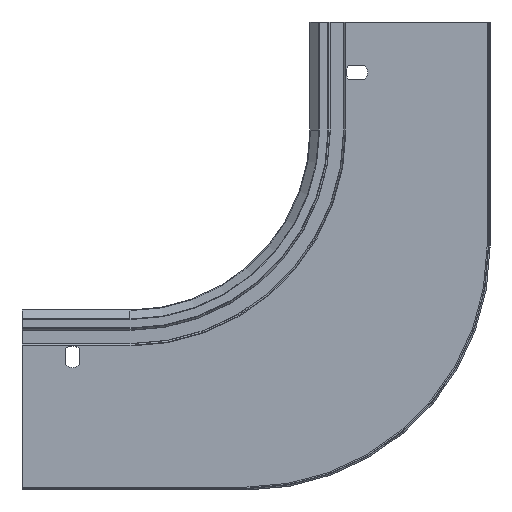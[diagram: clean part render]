
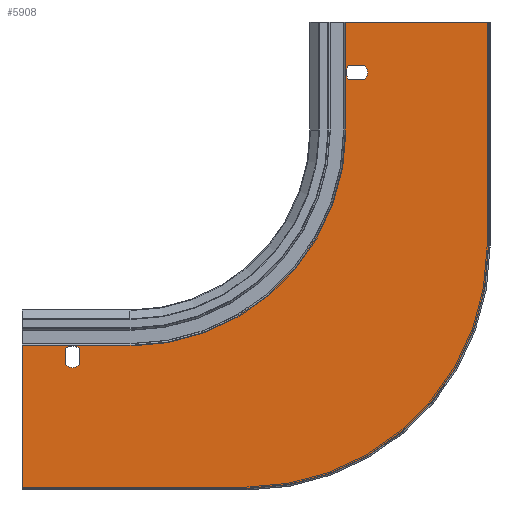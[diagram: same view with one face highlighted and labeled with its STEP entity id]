
A CAD part, left-side view. The second image highlights one B-rep face of the part: STEP entity #5908.
In plain terms, the highlighted planar face has unit normal (-1, 0, 0) as drawn and (0, -1, 0) by its records, which use the part's own axes.
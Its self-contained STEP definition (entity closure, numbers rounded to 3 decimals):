
#2 = VECTOR ( 'NONE', #1823, 1000. ) ;
#9 = VERTEX_POINT ( 'NONE', #3871 ) ;
#53 = DIRECTION ( 'NONE',  ( 0., -1., 0. ) ) ;
#66 = FACE_BOUND ( 'NONE', #3193, .T. ) ;
#80 = CARTESIAN_POINT ( 'NONE',  ( 232., 0., -186. ) ) ;
#115 = ORIENTED_EDGE ( 'NONE', *, *, #2751, .F. ) ;
#161 = DIRECTION ( 'NONE',  ( 0., 0., -1. ) ) ;
#271 = VERTEX_POINT ( 'NONE', #2615 ) ;
#300 = DIRECTION ( 'NONE',  ( 0., -1., 0. ) ) ;
#359 = CARTESIAN_POINT ( 'NONE',  ( 232., 0., -186. ) ) ;
#452 = ORIENTED_EDGE ( 'NONE', *, *, #3986, .F. ) ;
#458 = DIRECTION ( 'NONE',  ( 0., 1., 0. ) ) ;
#471 = ORIENTED_EDGE ( 'NONE', *, *, #3267, .T. ) ;
#590 = AXIS2_PLACEMENT_3D ( 'NONE', #3704, #1494, #4655 ) ;
#695 = CIRCLE ( 'NONE', #800, 6. ) ;
#798 = EDGE_LOOP ( 'NONE', ( #1672, #115, #4326, #2093, #4270, #5029, #471, #2550 ) ) ;
#800 = AXIS2_PLACEMENT_3D ( 'NONE', #3457, #5468, #5344 ) ;
#815 = DIRECTION ( 'NONE',  ( 0., -1., 0. ) ) ;
#990 = CIRCLE ( 'NONE', #2932, 6. ) ;
#991 = CARTESIAN_POINT ( 'NONE',  ( 80., 0., 0. ) ) ;
#1045 = VERTEX_POINT ( 'NONE', #2595 ) ;
#1051 = ORIENTED_EDGE ( 'NONE', *, *, #3142, .F. ) ;
#1079 = LINE ( 'NONE', #1529, #4200 ) ;
#1085 = EDGE_CURVE ( 'NONE', #2486, #2332, #4086, .T. ) ;
#1093 = AXIS2_PLACEMENT_3D ( 'NONE', #80, #53, #1936 ) ;
#1276 = EDGE_CURVE ( 'NONE', #4817, #4376, #5165, .T. ) ;
#1308 = EDGE_CURVE ( 'NONE', #1430, #5543, #4682, .T. ) ;
#1360 = ORIENTED_EDGE ( 'NONE', *, *, #2823, .F. ) ;
#1365 = EDGE_CURVE ( 'NONE', #271, #9, #1079, .T. ) ;
#1430 = VERTEX_POINT ( 'NONE', #3894 ) ;
#1445 = VERTEX_POINT ( 'NONE', #3922 ) ;
#1494 = DIRECTION ( 'NONE',  ( 0., -1., 0. ) ) ;
#1506 = CIRCLE ( 'NONE', #3628, 6. ) ;
#1529 = CARTESIAN_POINT ( 'NONE',  ( 260., 0., -259. ) ) ;
#1530 = VERTEX_POINT ( 'NONE', #3093 ) ;
#1545 = CARTESIAN_POINT ( 'NONE',  ( 69.528, 0., -24. ) ) ;
#1579 = VECTOR ( 'NONE', #3536, 1000. ) ;
#1584 = EDGE_LOOP ( 'NONE', ( #4097, #1360, #3795, #4148, #1608 ) ) ;
#1598 = EDGE_CURVE ( 'NONE', #2332, #5742, #5906, .T. ) ;
#1608 = ORIENTED_EDGE ( 'NONE', *, *, #2160, .F. ) ;
#1627 = ORIENTED_EDGE ( 'NONE', *, *, #4344, .F. ) ;
#1655 = VERTEX_POINT ( 'NONE', #1833 ) ;
#1672 = ORIENTED_EDGE ( 'NONE', *, *, #2628, .F. ) ;
#1683 = AXIS2_PLACEMENT_3D ( 'NONE', #4541, #458, #4061 ) ;
#1691 = CARTESIAN_POINT ( 'NONE',  ( 236., 0., 0. ) ) ;
#1772 = DIRECTION ( 'NONE',  ( 0., 0., -1. ) ) ;
#1823 = DIRECTION ( 'NONE',  ( 0., 0., -1. ) ) ;
#1832 = LINE ( 'NONE', #4161, #4885 ) ;
#1833 = CARTESIAN_POINT ( 'NONE',  ( 78.472, 0., -32. ) ) ;
#1849 = DIRECTION ( 'NONE',  ( 0., 0., -1. ) ) ;
#1936 = DIRECTION ( 'NONE',  ( 0., 0., -1. ) ) ;
#1945 = LINE ( 'NONE', #3244, #2181 ) ;
#1948 = PLANE ( 'NONE',  #2957 ) ;
#2013 = FACE_OUTER_BOUND ( 'NONE', #798, .T. ) ;
#2034 = EDGE_CURVE ( 'NONE', #5742, #271, #4124, .T. ) ;
#2037 = DIRECTION ( 'NONE',  ( 0., -1., 0. ) ) ;
#2081 = VECTOR ( 'NONE', #1849, 1000. ) ;
#2093 = ORIENTED_EDGE ( 'NONE', *, *, #2034, .F. ) ;
#2120 = CARTESIAN_POINT ( 'NONE',  ( 78.472, 0., -24. ) ) ;
#2123 = LINE ( 'NONE', #1691, #1579 ) ;
#2160 = EDGE_CURVE ( 'NONE', #1530, #1430, #2123, .T. ) ;
#2181 = VECTOR ( 'NONE', #2366, 1000. ) ;
#2234 = CARTESIAN_POINT ( 'NONE',  ( 200., 0., -60. ) ) ;
#2332 = VERTEX_POINT ( 'NONE', #5988 ) ;
#2353 = CARTESIAN_POINT ( 'NONE',  ( 0., 0., -24. ) ) ;
#2366 = DIRECTION ( 'NONE',  ( 1., 0., 0. ) ) ;
#2486 = VERTEX_POINT ( 'NONE', #3881 ) ;
#2550 = ORIENTED_EDGE ( 'NONE', *, *, #1276, .F. ) ;
#2584 = VERTEX_POINT ( 'NONE', #5367 ) ;
#2595 = CARTESIAN_POINT ( 'NONE',  ( 228., 0., -190.472 ) ) ;
#2603 = VERTEX_POINT ( 'NONE', #4912 ) ;
#2615 = CARTESIAN_POINT ( 'NONE',  ( 260., 0., -259. ) ) ;
#2628 = EDGE_CURVE ( 'NONE', #2603, #4817, #3504, .T. ) ;
#2725 = VECTOR ( 'NONE', #5435, 1000. ) ;
#2751 = EDGE_CURVE ( 'NONE', #9, #2603, #3809, .T. ) ;
#2788 = LINE ( 'NONE', #2353, #3138 ) ;
#2818 = VECTOR ( 'NONE', #5076, 1000. ) ;
#2823 = EDGE_CURVE ( 'NONE', #1445, #1045, #4666, .T. ) ;
#2932 = AXIS2_PLACEMENT_3D ( 'NONE', #359, #300, #1772 ) ;
#2957 = AXIS2_PLACEMENT_3D ( 'NONE', #3790, #2037, #161 ) ;
#3010 = AXIS2_PLACEMENT_3D ( 'NONE', #2234, #815, #5045 ) ;
#3028 = EDGE_CURVE ( 'NONE', #5543, #1445, #990, .T. ) ;
#3093 = CARTESIAN_POINT ( 'NONE',  ( 236., 0., -190.472 ) ) ;
#3138 = VECTOR ( 'NONE', #4206, 1000. ) ;
#3142 = EDGE_CURVE ( 'NONE', #3274, #2584, #695, .T. ) ;
#3193 = EDGE_LOOP ( 'NONE', ( #1051, #452, #4564, #1627 ) ) ;
#3244 = CARTESIAN_POINT ( 'NONE',  ( 0., 0., -32. ) ) ;
#3267 = EDGE_CURVE ( 'NONE', #2486, #4376, #1832, .T. ) ;
#3274 = VERTEX_POINT ( 'NONE', #1545 ) ;
#3276 = CARTESIAN_POINT ( 'NONE',  ( 80.331, 0., 0. ) ) ;
#3348 = CARTESIAN_POINT ( 'NONE',  ( 1., 0., 0. ) ) ;
#3372 = FACE_BOUND ( 'NONE', #1584, .T. ) ;
#3432 = CIRCLE ( 'NONE', #1093, 6. ) ;
#3457 = CARTESIAN_POINT ( 'NONE',  ( 74., 0., -28. ) ) ;
#3483 = DIRECTION ( 'NONE',  ( 0., -1., 0. ) ) ;
#3504 = LINE ( 'NONE', #4879, #5854 ) ;
#3516 = CARTESIAN_POINT ( 'NONE',  ( 74., 0., -28. ) ) ;
#3536 = DIRECTION ( 'NONE',  ( 0., 0., 1. ) ) ;
#3583 = CARTESIAN_POINT ( 'NONE',  ( 200., 0., -179.669 ) ) ;
#3628 = AXIS2_PLACEMENT_3D ( 'NONE', #3516, #3483, #5248 ) ;
#3656 = EDGE_CURVE ( 'NONE', #1045, #1530, #3432, .T. ) ;
#3697 = DIRECTION ( 'NONE',  ( 0., 0., 1. ) ) ;
#3704 = CARTESIAN_POINT ( 'NONE',  ( 232., 0., -186. ) ) ;
#3790 = CARTESIAN_POINT ( 'NONE',  ( 0., 0., 0. ) ) ;
#3795 = ORIENTED_EDGE ( 'NONE', *, *, #3028, .F. ) ;
#3809 = CIRCLE ( 'NONE', #1683, 134. ) ;
#3859 = VERTEX_POINT ( 'NONE', #2120 ) ;
#3871 = CARTESIAN_POINT ( 'NONE',  ( 135., 0., -259. ) ) ;
#3881 = CARTESIAN_POINT ( 'NONE',  ( 80.331, 0., -60. ) ) ;
#3894 = CARTESIAN_POINT ( 'NONE',  ( 236., 0., -181.528 ) ) ;
#3922 = CARTESIAN_POINT ( 'NONE',  ( 228., 0., -181.528 ) ) ;
#3986 = EDGE_CURVE ( 'NONE', #3859, #3274, #2788, .T. ) ;
#3998 = EDGE_CURVE ( 'NONE', #1655, #3859, #1506, .T. ) ;
#4061 = DIRECTION ( 'NONE',  ( 0., 0., 1. ) ) ;
#4086 = CIRCLE ( 'NONE', #3010, 119.669 ) ;
#4097 = ORIENTED_EDGE ( 'NONE', *, *, #3656, .F. ) ;
#4124 = LINE ( 'NONE', #5981, #2 ) ;
#4148 = ORIENTED_EDGE ( 'NONE', *, *, #1308, .F. ) ;
#4161 = CARTESIAN_POINT ( 'NONE',  ( 80.331, 0., -60. ) ) ;
#4200 = VECTOR ( 'NONE', #5720, 1000. ) ;
#4206 = DIRECTION ( 'NONE',  ( -1., 0., 0. ) ) ;
#4270 = ORIENTED_EDGE ( 'NONE', *, *, #1598, .F. ) ;
#4326 = ORIENTED_EDGE ( 'NONE', *, *, #1365, .F. ) ;
#4344 = EDGE_CURVE ( 'NONE', #2584, #1655, #1945, .T. ) ;
#4376 = VERTEX_POINT ( 'NONE', #3276 ) ;
#4485 = DIRECTION ( 'NONE',  ( 0., 0., 1. ) ) ;
#4541 = CARTESIAN_POINT ( 'NONE',  ( 135., 0., -125. ) ) ;
#4564 = ORIENTED_EDGE ( 'NONE', *, *, #3998, .F. ) ;
#4655 = DIRECTION ( 'NONE',  ( 0., 0., -1. ) ) ;
#4666 = LINE ( 'NONE', #6004, #2081 ) ;
#4682 = CIRCLE ( 'NONE', #590, 6. ) ;
#4817 = VERTEX_POINT ( 'NONE', #3348 ) ;
#4879 = CARTESIAN_POINT ( 'NONE',  ( 1., 0., -125. ) ) ;
#4885 = VECTOR ( 'NONE', #3697, 1000. ) ;
#4912 = CARTESIAN_POINT ( 'NONE',  ( 1., 0., -125. ) ) ;
#5029 = ORIENTED_EDGE ( 'NONE', *, *, #1085, .F. ) ;
#5045 = DIRECTION ( 'NONE',  ( 0., 0., -1. ) ) ;
#5076 = DIRECTION ( 'NONE',  ( 1., 0., 0. ) ) ;
#5165 = LINE ( 'NONE', #991, #2818 ) ;
#5229 = CARTESIAN_POINT ( 'NONE',  ( 232., 0., -180. ) ) ;
#5248 = DIRECTION ( 'NONE',  ( 0., 0., -1. ) ) ;
#5344 = DIRECTION ( 'NONE',  ( 0., 0., -1. ) ) ;
#5367 = CARTESIAN_POINT ( 'NONE',  ( 69.528, 0., -32. ) ) ;
#5435 = DIRECTION ( 'NONE',  ( 1., 0., 0. ) ) ;
#5468 = DIRECTION ( 'NONE',  ( 0., -1., 0. ) ) ;
#5475 = CARTESIAN_POINT ( 'NONE',  ( 260., 0., -179.669 ) ) ;
#5543 = VERTEX_POINT ( 'NONE', #5229 ) ;
#5720 = DIRECTION ( 'NONE',  ( -1., 0., 0. ) ) ;
#5742 = VERTEX_POINT ( 'NONE', #5475 ) ;
#5854 = VECTOR ( 'NONE', #4485, 1000. ) ;
#5906 = LINE ( 'NONE', #3583, #2725 ) ;
#5908 = ADVANCED_FACE ( 'NONE', ( #66, #3372, #2013 ), #1948, .T. ) ;
#5981 = CARTESIAN_POINT ( 'NONE',  ( 260., 0., -260. ) ) ;
#5988 = CARTESIAN_POINT ( 'NONE',  ( 200., 0., -179.669 ) ) ;
#6004 = CARTESIAN_POINT ( 'NONE',  ( 228., 0., 0. ) ) ;
